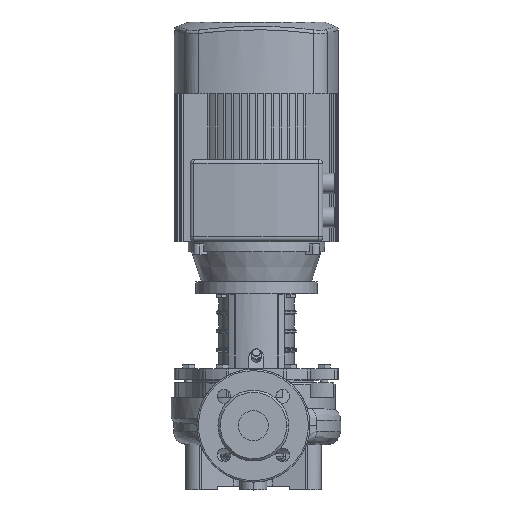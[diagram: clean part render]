
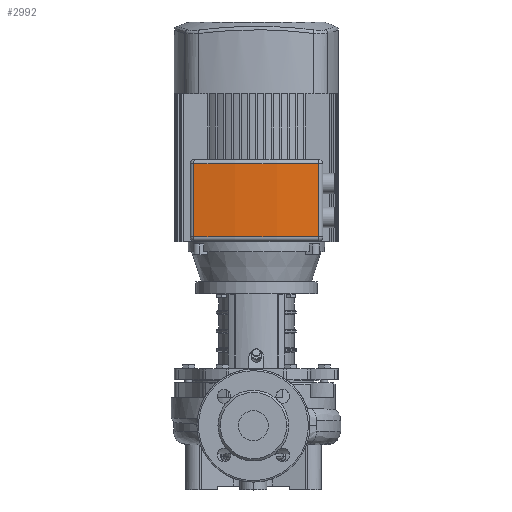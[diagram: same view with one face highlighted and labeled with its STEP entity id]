
A CAD part, top view. The second image highlights one B-rep face of the part: STEP entity #2992.
In plain terms, the highlighted cylindrical face has radius 507 mm (diameter 1014 mm), a partial arc.
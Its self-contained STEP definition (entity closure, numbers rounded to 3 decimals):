
#609=CYLINDRICAL_SURFACE('',#21629,507.);
#1520=FACE_OUTER_BOUND('',#7960,.T.);
#2992=ADVANCED_FACE('',(#1520),#609,.T.);
#4942=LINE('',#39925,#6421);
#4949=LINE('',#39972,#6428);
#6421=VECTOR('',#26411,1.);
#6428=VECTOR('',#26470,1.);
#7960=EDGE_LOOP('',(#12276,#12277,#12278,#12279));
#12276=ORIENTED_EDGE('',*,*,#18218,.T.);
#12277=ORIENTED_EDGE('',*,*,#18209,.T.);
#12278=ORIENTED_EDGE('',*,*,#18226,.T.);
#12279=ORIENTED_EDGE('',*,*,#18233,.T.);
#15674=VERTEX_POINT('',#39924);
#15675=VERTEX_POINT('',#39926);
#15679=VERTEX_POINT('',#39940);
#15686=VERTEX_POINT('',#39959);
#18209=EDGE_CURVE('',#15675,#15674,#4942,.T.);
#18218=EDGE_CURVE('',#15679,#15675,#19715,.T.);
#18226=EDGE_CURVE('',#15674,#15686,#19719,.T.);
#18233=EDGE_CURVE('',#15686,#15679,#4949,.T.);
#19715=CIRCLE('',#21586,507.);
#19719=CIRCLE('',#21593,507.);
#21586=AXIS2_PLACEMENT_3D('',#39943,#26433,#26434);
#21593=AXIS2_PLACEMENT_3D('',#39960,#26451,#26452);
#21629=AXIS2_PLACEMENT_3D('',#40032,#26537,#26538);
#26411=DIRECTION('',(0.,1.,0.));
#26433=DIRECTION('',(0.,1.,0.));
#26434=DIRECTION('',(0.,0.,-1.));
#26451=DIRECTION('',(0.,-1.,0.));
#26452=DIRECTION('',(-1.,0.,0.));
#26470=DIRECTION('',(0.,-1.,0.));
#26537=DIRECTION('',(0.,-1.,0.));
#26538=DIRECTION('',(-1.,0.,0.));
#39924=CARTESIAN_POINT('',(83.083,347.5,147.146));
#39925=CARTESIAN_POINT('',(83.083,250.5,147.146));
#39926=CARTESIAN_POINT('',(83.083,250.5,147.146));
#39940=CARTESIAN_POINT('',(-83.083,250.5,147.146));
#39943=CARTESIAN_POINT('',(0.,250.5,-353.));
#39959=CARTESIAN_POINT('',(-83.083,347.5,147.146));
#39960=CARTESIAN_POINT('',(0.,347.5,-353.));
#39972=CARTESIAN_POINT('',(-83.083,347.5,147.146));
#40032=CARTESIAN_POINT('',(0.,574.902,-353.));
